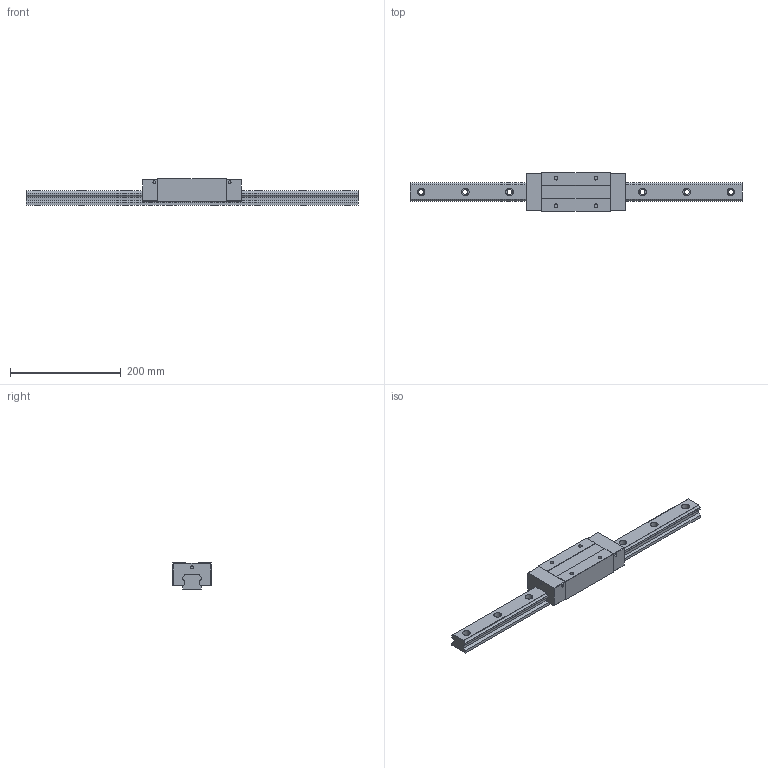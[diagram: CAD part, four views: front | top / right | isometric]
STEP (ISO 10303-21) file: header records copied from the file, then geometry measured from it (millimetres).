
FILE_DESCRIPTION (( 'STEP AP203' ), '1' );
FILE_NAME ('TRS35VE-DZ.STEP', '2024-06-28T07:30:16', ( '' ), ( '' ), 'SwSTEP 2.0', 'SolidWorks 2022', '' );
FILE_SCHEMA (( 'CONFIG_CONTROL_DESIGN' ));
Length unit declared in the file: millimetre
Products named in the file (1): TRS35VE-DZ
Bounding box: 600 x 70 x 48 mm (x, y, z)
Volume: 843512.7 mm3; surface area: 135269.8 mm2
Topology: 2 solids, 2 shells, 178 faces, 464 edges, 308 vertices
Faces by surface type: plane 90, cylinder 88
Entity records: 5619 total; most frequent: DIRECTION 998, CARTESIAN_POINT 951, ORIENTED_EDGE 928, EDGE_CURVE 464, AXIS2_PLACEMENT_3D 355, VERTEX_POINT 308, LINE 288, VECTOR 288
